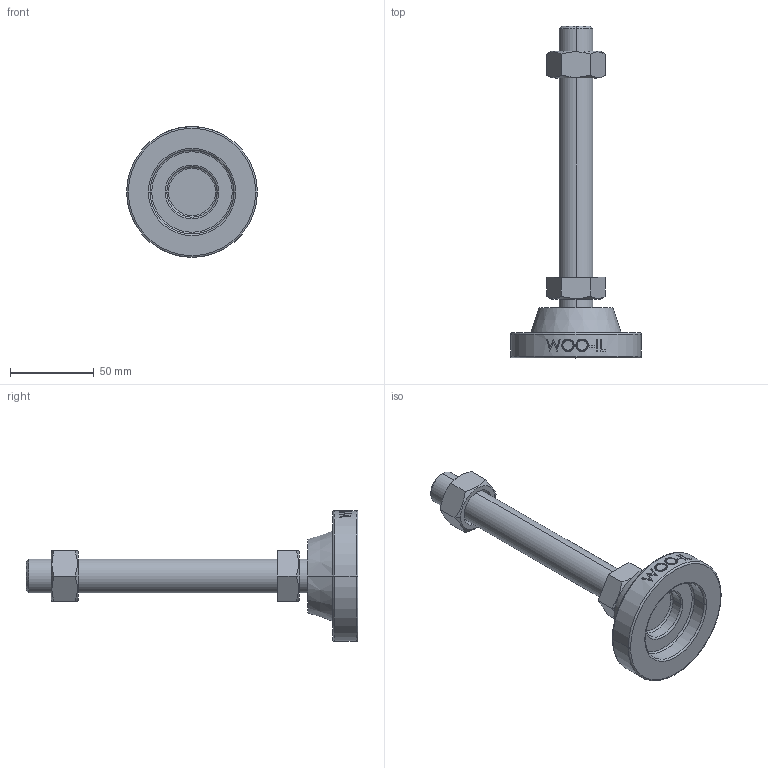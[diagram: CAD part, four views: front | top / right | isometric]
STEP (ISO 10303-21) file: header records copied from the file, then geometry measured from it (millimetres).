
FILE_DESCRIPTION (( 'STEP AP214' ), '1' );
FILE_NAME ('MFU78-M20-150.step', '2021-01-21T06:14:24', ( '' ), ( '' ), 'SwSTEP 2.0', 'SolidWorks 2019', '' );
FILE_SCHEMA (( 'AUTOMOTIVE_DESIGN' ));
Length unit declared in the file: millimetre
Products named in the file (2): MFU78-M20-150
Bounding box: 78 x 198 x 78 mm (x, y, z)
Volume: 140498.1 mm3; surface area: 32083.2 mm2
Topology: 2 solids, 2 shells, 111 faces, 255 edges, 162 vertices
Faces by surface type: plane 49, cylinder 20, bspline 16, cone 14, torus 12
Entity records: 4675 total; most frequent: CARTESIAN_POINT 2214, ORIENTED_EDGE 510, DIRECTION 471, EDGE_CURVE 255, AXIS2_PLACEMENT_3D 185, VERTEX_POINT 162, EDGE_LOOP 127, ADVANCED_FACE 111
